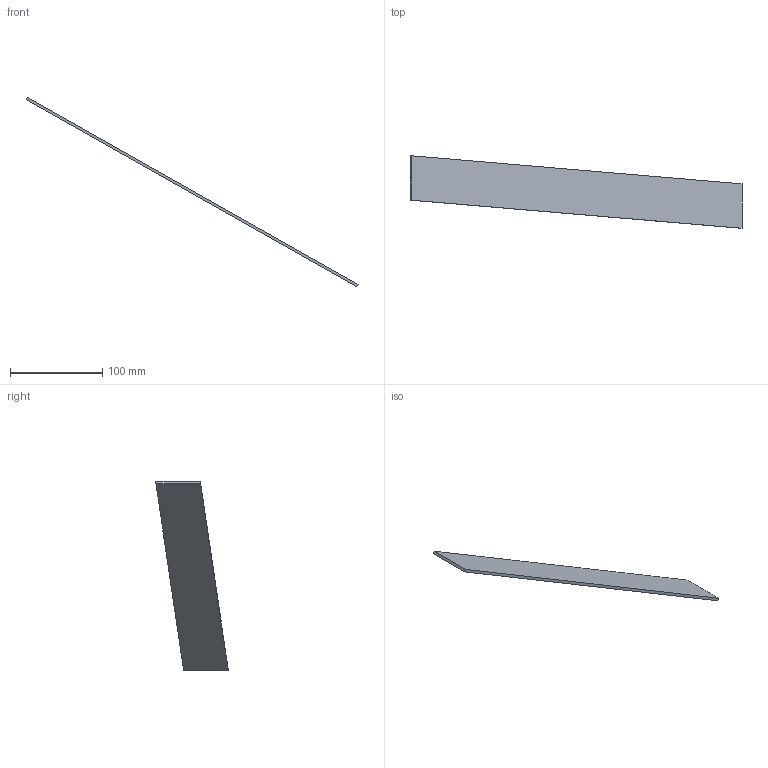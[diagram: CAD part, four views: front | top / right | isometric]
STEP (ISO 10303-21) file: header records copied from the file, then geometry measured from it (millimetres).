
FILE_DESCRIPTION(('Open CASCADE Model'),'2;1');
FILE_NAME('Open CASCADE Shape Model','2026-10-04T02:31:38',('Author'),( 'Open CASCADE'),'Open CASCADE STEP processor 8.0','Open CASCADE 8.0' ,'Unknown');
FILE_SCHEMA(('AUTOMOTIVE_DESIGN { 1 0 10303 214 1 1 1 1 }'));
Length unit declared in the file: millimetre
Products named in the file (1): Open CASCADE STEP translator 8.0 123
Bounding box: 358.98 x 78 x 204.61 mm (x, y, z)
Volume: 59129.5 mm3; surface area: 42178 mm2
Topology: 1 solids, 1 shells, 6 faces, 12 edges, 8 vertices
Faces by surface type: plane 6
Entity records: 322 total; most frequent: CARTESIAN_POINT 51, DIRECTION 50, LINE 36, VECTOR 36, ORIENTED_EDGE 24, PCURVE 24, DEFINITIONAL_REPRESENTATION 24, EDGE_CURVE 12
